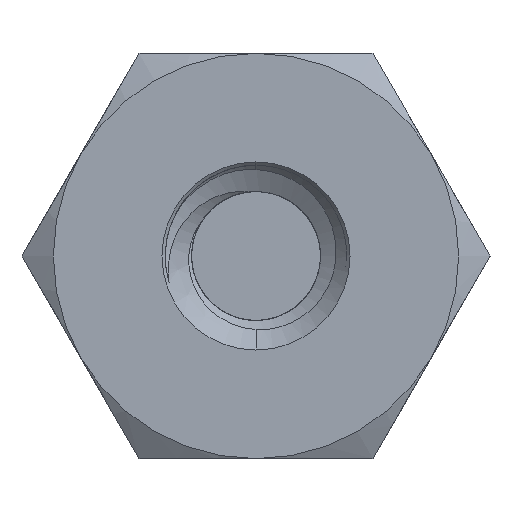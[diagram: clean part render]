
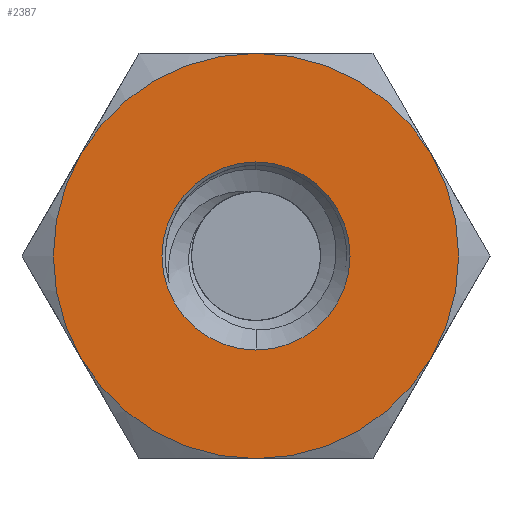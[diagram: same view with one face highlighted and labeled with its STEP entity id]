
A CAD part, left-side view. The second image highlights one B-rep face of the part: STEP entity #2387.
In plain terms, the highlighted planar face has unit normal (-1, 0, 0).
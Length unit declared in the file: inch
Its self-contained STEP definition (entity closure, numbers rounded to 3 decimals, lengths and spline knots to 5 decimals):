
#71 = CIRCLE ( 'NONE', #3839, 0.125 ) ;
#93 = CARTESIAN_POINT ( 'NONE',  ( -1.34375, 0., 0. ) ) ;
#113 = DIRECTION ( 'NONE',  ( 1., 0., 0. ) ) ;
#131 = DIRECTION ( 'NONE',  ( -1., 0., 0. ) ) ;
#165 = DIRECTION ( 'NONE',  ( 0., 0., 1. ) ) ;
#188 = DIRECTION ( 'NONE',  ( 0., 0., -1. ) ) ;
#206 = CARTESIAN_POINT ( 'NONE',  ( -1.34375, -0.10825, -0.0625 ) ) ;
#223 = EDGE_LOOP ( 'NONE', ( #2939, #3865, #1197, #3559, #3096, #3362 ) ) ;
#273 = DIRECTION ( 'NONE',  ( 1., 0., 0. ) ) ;
#315 = CARTESIAN_POINT ( 'NONE',  ( -1.34375, 0., -0.125 ) ) ;
#326 = VERTEX_POINT ( 'NONE', #3932 ) ;
#329 = EDGE_CURVE ( 'NONE', #2988, #2516, #1817, .T. ) ;
#539 = VERTEX_POINT ( 'NONE', #2117 ) ;
#726 = AXIS2_PLACEMENT_3D ( 'NONE', #839, #4147, #2835 ) ;
#755 = EDGE_CURVE ( 'NONE', #326, #4026, #1151, .T. ) ;
#759 = CARTESIAN_POINT ( 'NONE',  ( -1.34375, 0., 0. ) ) ;
#761 = DIRECTION ( 'NONE',  ( 0., 0., -1. ) ) ;
#839 = CARTESIAN_POINT ( 'NONE',  ( -1.34375, 0.14434, 0. ) ) ;
#1027 = DIRECTION ( 'NONE',  ( -1., 0., 0. ) ) ;
#1078 = DIRECTION ( 'NONE',  ( 0., 0., 1. ) ) ;
#1118 = DIRECTION ( 'NONE',  ( 1., 0., 0. ) ) ;
#1148 = CARTESIAN_POINT ( 'NONE',  ( -1.34375, 0., 0.058 ) ) ;
#1151 = CIRCLE ( 'NONE', #1796, 0.058 ) ;
#1197 = ORIENTED_EDGE ( 'NONE', *, *, #329, .F. ) ;
#1209 = ORIENTED_EDGE ( 'NONE', *, *, #3793, .F. ) ;
#1217 = CARTESIAN_POINT ( 'NONE',  ( -1.34375, 0.10825, -0.0625 ) ) ;
#1225 = AXIS2_PLACEMENT_3D ( 'NONE', #1894, #273, #1932 ) ;
#1339 = AXIS2_PLACEMENT_3D ( 'NONE', #4193, #3521, #188 ) ;
#1379 = FACE_BOUND ( 'NONE', #3146, .T. ) ;
#1610 = CARTESIAN_POINT ( 'NONE',  ( -1.34375, 0., 0. ) ) ;
#1655 = CARTESIAN_POINT ( 'NONE',  ( -1.34375, -0.10825, 0.0625 ) ) ;
#1784 = CIRCLE ( 'NONE', #1225, 0.125 ) ;
#1793 = EDGE_CURVE ( 'NONE', #2672, #539, #3742, .T. ) ;
#1796 = AXIS2_PLACEMENT_3D ( 'NONE', #93, #1027, #3381 ) ;
#1817 = CIRCLE ( 'NONE', #3772, 0.125 ) ;
#1894 = CARTESIAN_POINT ( 'NONE',  ( -1.34375, 0., 0. ) ) ;
#1932 = DIRECTION ( 'NONE',  ( 0., 0., -1. ) ) ;
#1959 = AXIS2_PLACEMENT_3D ( 'NONE', #2464, #131, #1078 ) ;
#2094 = CARTESIAN_POINT ( 'NONE',  ( -1.34375, 0., 0. ) ) ;
#2117 = CARTESIAN_POINT ( 'NONE',  ( -1.34375, 0.10825, 0.0625 ) ) ;
#2297 = DIRECTION ( 'NONE',  ( 0., 0., -1. ) ) ;
#2387 = ADVANCED_FACE ( 'NONE', ( #1379, #3272 ), #3551, .F. ) ;
#2397 = CIRCLE ( 'NONE', #1339, 0.125 ) ;
#2409 = VERTEX_POINT ( 'NONE', #1217 ) ;
#2464 = CARTESIAN_POINT ( 'NONE',  ( -1.34375, 0., 0. ) ) ;
#2516 = VERTEX_POINT ( 'NONE', #206 ) ;
#2568 = EDGE_CURVE ( 'NONE', #2409, #539, #1784, .T. ) ;
#2607 = AXIS2_PLACEMENT_3D ( 'NONE', #759, #2792, #165 ) ;
#2672 = VERTEX_POINT ( 'NONE', #3596 ) ;
#2714 = CIRCLE ( 'NONE', #1959, 0.058 ) ;
#2792 = DIRECTION ( 'NONE',  ( -1., 0., 0. ) ) ;
#2795 = CARTESIAN_POINT ( 'NONE',  ( -1.34375, 0., 0. ) ) ;
#2835 = DIRECTION ( 'NONE',  ( 0., 0., -1. ) ) ;
#2939 = ORIENTED_EDGE ( 'NONE', *, *, #3939, .F. ) ;
#2988 = VERTEX_POINT ( 'NONE', #1655 ) ;
#3096 = ORIENTED_EDGE ( 'NONE', *, *, #1793, .T. ) ;
#3100 = VERTEX_POINT ( 'NONE', #315 ) ;
#3146 = EDGE_LOOP ( 'NONE', ( #1209, #3195 ) ) ;
#3195 = ORIENTED_EDGE ( 'NONE', *, *, #755, .F. ) ;
#3272 = FACE_OUTER_BOUND ( 'NONE', #223, .T. ) ;
#3362 = ORIENTED_EDGE ( 'NONE', *, *, #2568, .F. ) ;
#3381 = DIRECTION ( 'NONE',  ( 0., 0., 1. ) ) ;
#3436 = DIRECTION ( 'NONE',  ( 0., 0., -1. ) ) ;
#3521 = DIRECTION ( 'NONE',  ( 1., 0., 0. ) ) ;
#3551 = PLANE ( 'NONE',  #726 ) ;
#3559 = ORIENTED_EDGE ( 'NONE', *, *, #3820, .F. ) ;
#3596 = CARTESIAN_POINT ( 'NONE',  ( -1.34375, 0., 0.125 ) ) ;
#3742 = CIRCLE ( 'NONE', #2607, 0.125 ) ;
#3772 = AXIS2_PLACEMENT_3D ( 'NONE', #1610, #3957, #2297 ) ;
#3793 = EDGE_CURVE ( 'NONE', #4026, #326, #2714, .T. ) ;
#3820 = EDGE_CURVE ( 'NONE', #2672, #2988, #4162, .T. ) ;
#3839 = AXIS2_PLACEMENT_3D ( 'NONE', #2094, #113, #761 ) ;
#3865 = ORIENTED_EDGE ( 'NONE', *, *, #3969, .F. ) ;
#3932 = CARTESIAN_POINT ( 'NONE',  ( -1.34375, 0., -0.058 ) ) ;
#3939 = EDGE_CURVE ( 'NONE', #3100, #2409, #71, .T. ) ;
#3957 = DIRECTION ( 'NONE',  ( 1., 0., 0. ) ) ;
#3969 = EDGE_CURVE ( 'NONE', #2516, #3100, #2397, .T. ) ;
#3980 = AXIS2_PLACEMENT_3D ( 'NONE', #2795, #1118, #3436 ) ;
#4026 = VERTEX_POINT ( 'NONE', #1148 ) ;
#4147 = DIRECTION ( 'NONE',  ( 1., 0., 0. ) ) ;
#4162 = CIRCLE ( 'NONE', #3980, 0.125 ) ;
#4193 = CARTESIAN_POINT ( 'NONE',  ( -1.34375, 0., 0. ) ) ;
